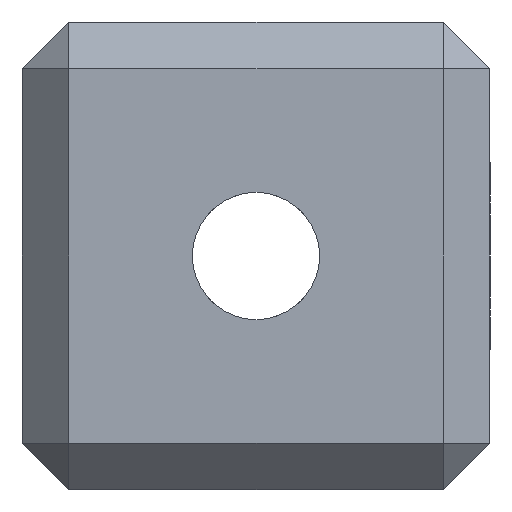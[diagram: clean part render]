
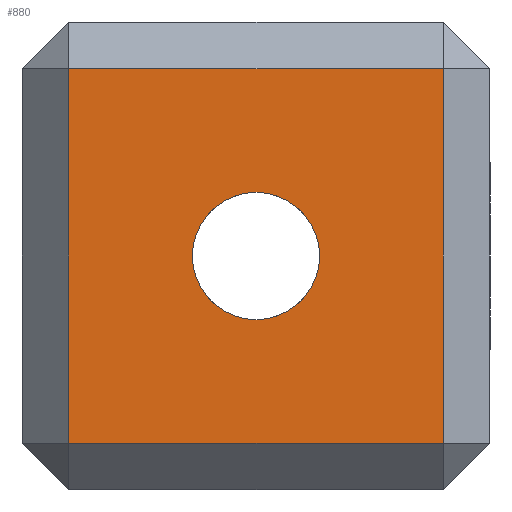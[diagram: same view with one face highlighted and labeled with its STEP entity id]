
A CAD part, front view. The second image highlights one B-rep face of the part: STEP entity #880.
In plain terms, the highlighted planar face has unit normal (0, -1, 0).
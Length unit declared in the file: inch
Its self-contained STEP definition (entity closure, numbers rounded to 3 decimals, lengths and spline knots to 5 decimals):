
#1 = CIRCLE ( 'NONE', #210, 0.068 ) ;
#48 = VECTOR ( 'NONE', #1133, 39.37008 ) ;
#79 = LINE ( 'NONE', #576, #48 ) ;
#86 = EDGE_CURVE ( 'NONE', #875, #394, #79, .T. ) ;
#88 = FACE_BOUND ( 'NONE', #433, .T. ) ;
#109 = CARTESIAN_POINT ( 'NONE',  ( -0.25, -0.25, 0.5 ) ) ;
#114 = VERTEX_POINT ( 'NONE', #770 ) ;
#117 = CARTESIAN_POINT ( 'NONE',  ( -0.2, -0.25, 0.05 ) ) ;
#136 = DIRECTION ( 'NONE',  ( 0., 0., -1. ) ) ;
#150 = ORIENTED_EDGE ( 'NONE', *, *, #363, .F. ) ;
#170 = EDGE_CURVE ( 'NONE', #394, #114, #739, .T. ) ;
#186 = ORIENTED_EDGE ( 'NONE', *, *, #86, .F. ) ;
#210 = AXIS2_PLACEMENT_3D ( 'NONE', #320, #969, #405 ) ;
#215 = ORIENTED_EDGE ( 'NONE', *, *, #170, .F. ) ;
#230 = CARTESIAN_POINT ( 'NONE',  ( 0.2, -0.25, 0.5 ) ) ;
#293 = AXIS2_PLACEMENT_3D ( 'NONE', #327, #978, #416 ) ;
#294 = CARTESIAN_POINT ( 'NONE',  ( -0.25, -0.25, 0.05 ) ) ;
#296 = DIRECTION ( 'NONE',  ( 0., 0., 1. ) ) ;
#320 = CARTESIAN_POINT ( 'NONE',  ( 0., -0.25, 0.25 ) ) ;
#327 = CARTESIAN_POINT ( 'NONE',  ( 0., -0.25, 0.25 ) ) ;
#352 = LINE ( 'NONE', #294, #594 ) ;
#363 = EDGE_CURVE ( 'NONE', #114, #923, #352, .T. ) ;
#377 = DIRECTION ( 'NONE',  ( -1., 0., 0. ) ) ;
#394 = VERTEX_POINT ( 'NONE', #475 ) ;
#405 = DIRECTION ( 'NONE',  ( 0., 0., 1. ) ) ;
#416 = DIRECTION ( 'NONE',  ( 0., 0., 1. ) ) ;
#433 = EDGE_LOOP ( 'NONE', ( #907, #1115 ) ) ;
#466 = VECTOR ( 'NONE', #136, 39.37008 ) ;
#472 = CARTESIAN_POINT ( 'NONE',  ( -0.2, -0.25, 0.45 ) ) ;
#475 = CARTESIAN_POINT ( 'NONE',  ( 0.2, -0.25, 0.45 ) ) ;
#509 = CARTESIAN_POINT ( 'NONE',  ( -0.2, -0.25, 0.5 ) ) ;
#513 = EDGE_CURVE ( 'NONE', #965, #719, #1, .T. ) ;
#519 = EDGE_LOOP ( 'NONE', ( #215, #186, #999, #150 ) ) ;
#569 = EDGE_CURVE ( 'NONE', #923, #875, #610, .T. ) ;
#576 = CARTESIAN_POINT ( 'NONE',  ( 0., -0.25, 0.45 ) ) ;
#594 = VECTOR ( 'NONE', #377, 39.37008 ) ;
#610 = LINE ( 'NONE', #509, #1081 ) ;
#691 = DIRECTION ( 'NONE',  ( 0., 0., 1. ) ) ;
#697 = CARTESIAN_POINT ( 'NONE',  ( 0., -0.25, 0.182 ) ) ;
#719 = VERTEX_POINT ( 'NONE', #1089 ) ;
#739 = LINE ( 'NONE', #230, #466 ) ;
#770 = CARTESIAN_POINT ( 'NONE',  ( 0.2, -0.25, 0.05 ) ) ;
#802 = AXIS2_PLACEMENT_3D ( 'NONE', #109, #833, #296 ) ;
#833 = DIRECTION ( 'NONE',  ( 0., 1., 0. ) ) ;
#852 = CIRCLE ( 'NONE', #293, 0.068 ) ;
#875 = VERTEX_POINT ( 'NONE', #472 ) ;
#880 = ADVANCED_FACE ( 'NONE', ( #88, #982 ), #1028, .F. ) ;
#907 = ORIENTED_EDGE ( 'NONE', *, *, #1006, .F. ) ;
#923 = VERTEX_POINT ( 'NONE', #117 ) ;
#965 = VERTEX_POINT ( 'NONE', #697 ) ;
#969 = DIRECTION ( 'NONE',  ( 0., -1., 0. ) ) ;
#978 = DIRECTION ( 'NONE',  ( 0., -1., 0. ) ) ;
#982 = FACE_OUTER_BOUND ( 'NONE', #519, .T. ) ;
#999 = ORIENTED_EDGE ( 'NONE', *, *, #569, .F. ) ;
#1006 = EDGE_CURVE ( 'NONE', #719, #965, #852, .T. ) ;
#1028 = PLANE ( 'NONE',  #802 ) ;
#1081 = VECTOR ( 'NONE', #691, 39.37008 ) ;
#1089 = CARTESIAN_POINT ( 'NONE',  ( 0., -0.25, 0.318 ) ) ;
#1115 = ORIENTED_EDGE ( 'NONE', *, *, #513, .F. ) ;
#1133 = DIRECTION ( 'NONE',  ( 1., 0., 0. ) ) ;
